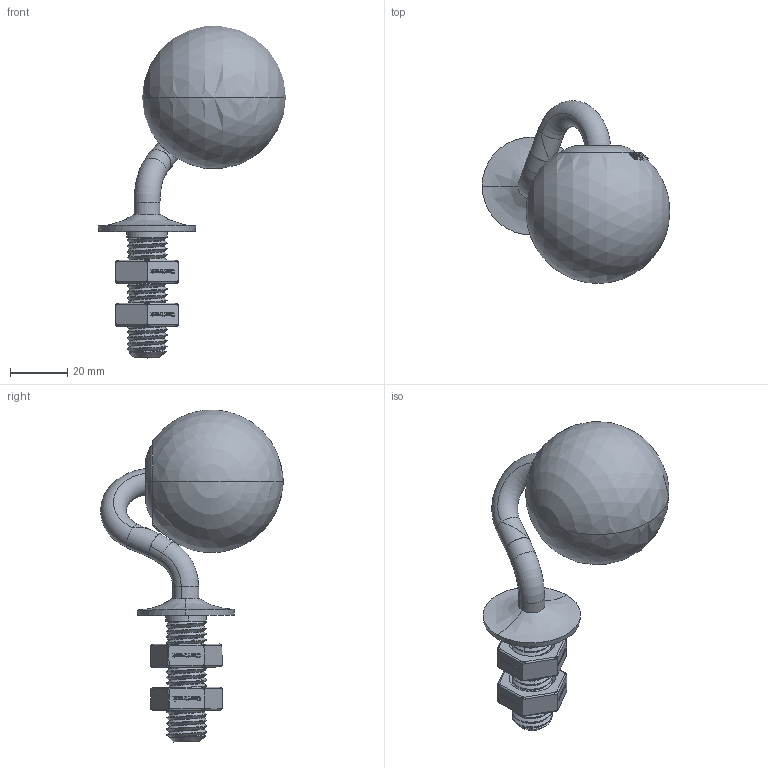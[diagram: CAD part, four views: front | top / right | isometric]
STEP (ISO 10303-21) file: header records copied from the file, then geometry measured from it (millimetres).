
FILE_DESCRIPTION((''),'2;1');
FILE_NAME('OMNIFLOAT50-100R_ASM','2015-08-20T',('David'),(''),'PRO/ENGINEER BY PARAMETRIC TECHNOLOGY CORPORATION, 2013320','PRO/ENGINEER BY PARAMETRIC TECHNOLOGY CORPORATION, 2013320','');
FILE_SCHEMA(('CONFIG_CONTROL_DESIGN'));
Products named in the file (9): OMNIFLOATBALL50; OMNIFLOATCAP50; OMNIFLOATTUBE50A; OMNIFLOATTUBE50B; OMNIFLOATTUBE50R_ASM; OMNIFLOATRUBBER50; OMNIFLOATBOLT50; OMNIFLOATNUT50; OMNIFLOAT50-100R_ASM
Assembly tree (9 placements, depth 3):
  OMNIFLOAT50-100R_ASM
    OMNIFLOATBALL50
    OMNIFLOATCAP50
    OMNIFLOATTUBE50R_ASM
      OMNIFLOATTUBE50A
      OMNIFLOATTUBE50B
    OMNIFLOATRUBBER50
    OMNIFLOATBOLT50
    OMNIFLOATNUT50  x2
Bounding box: 65.3 x 63.71 x 115.57 mm (x, y, z)
Volume: 80781.7 mm3; surface area: 21528.2 mm2
Topology: 8 solids, 8 shells, 2018 faces, 5639 edges, 3710 vertices
Faces by surface type: plane 1801, bspline 88, cylinder 54, sphere 31, torus 30, cone 14
Entity records: 55099 total; most frequent: CARTESIAN_POINT 24592, ORIENTED_EDGE 6560, DIRECTION 5994, EDGE_CURVE 3280, VECTOR 2602, LINE 2602, VERTEX_POINT 2156, AXIS2_PLACEMENT_3D 1696
